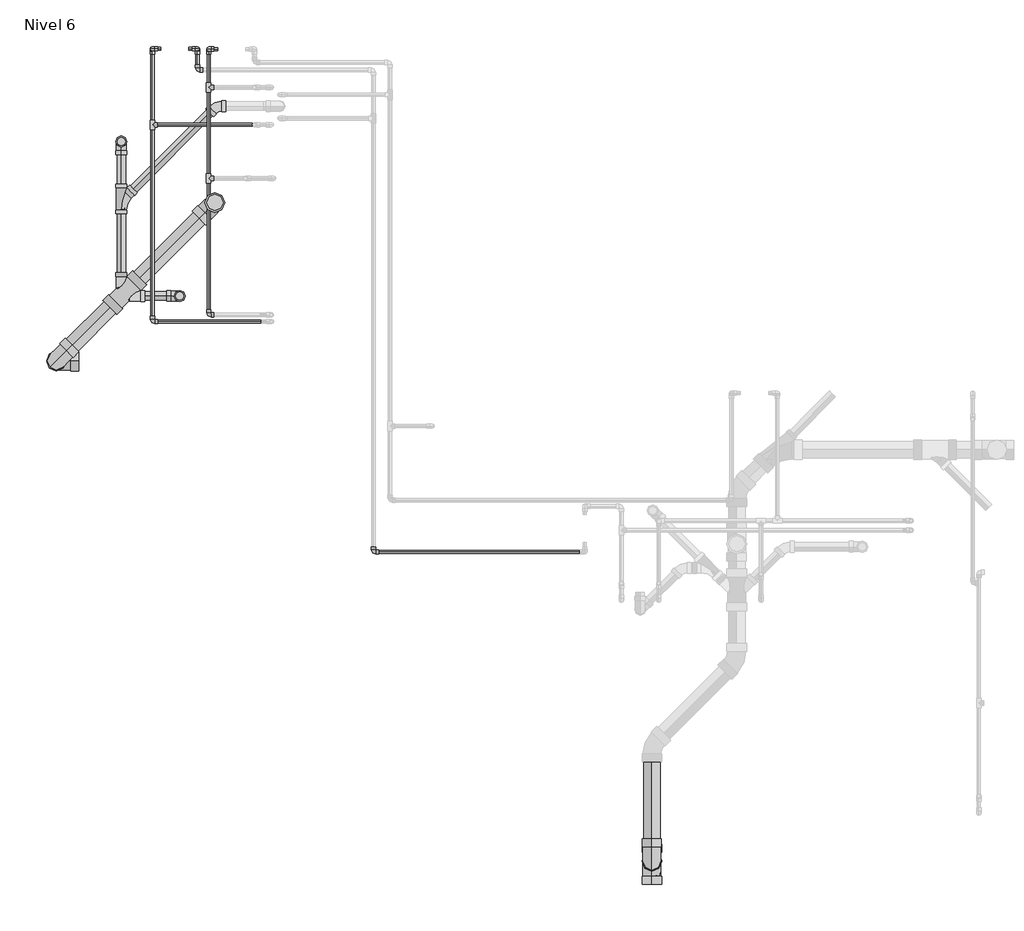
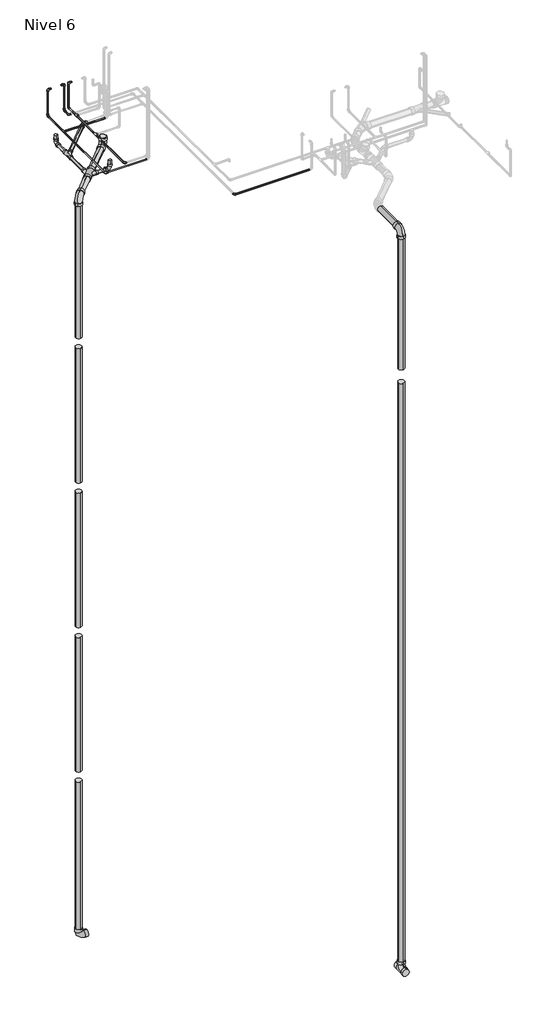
# One storey, part 1 of 11: 32 pipe segments, 23 pipe fittings.
"""IFC4 building model written with IfcOpenShell, lengths in millimetres."""

from ifc_helpers import new_model, si_unit, point, frame, frame_2d, origin, place, context, project, spatial, circle_curve, trimmed, segment, composite_curve, outline, extrude, transform, mapped, element, save
from components import pipe_fitting_ab418b84, pipe_fitting_0163322b, pipe_fitting_2a8dfbef, pipe_fitting_815a0334, m_codo_pvc_serie_40_9ad74631, m_codo_pvc_serie_40_dwv1_5c0ec739, m_codo_pvc_serie_40_dwv1_f5c0a64d, m_codo_pvc_serie_40_dwv1_6f1a2495

model = new_model("IFC4")

# Units and contexts
model_context = context("Model", 3, world=origin())
ifc_project = project(units=[si_unit("LENGTHUNIT", "METRE", prefix="MILLI")], contexts=[model_context])

# Site, building, storey
site = spatial("IfcSite", under=ifc_project)
building = spatial("IfcBuilding", under=site)
storey = spatial("IfcBuildingStorey", under=building, Name="Nivel 6", Elevation=13400.0)

# Pipe fittings
placement = place(None, origin())
pipe_fitting_shape = pipe_fitting_ab418b84(model_context)
element("IfcPipeFitting", 1, ObjectType="M_Te - PVC - Serie 40 : Estándar", at=placement, inside=storey, context=model_context, shape_type="MappedRepresentation", body=[
    mapped(pipe_fitting_shape, transform((-163.7204345, 8276.8784649, 13350.0), x_axis=(0.0, 1.0, 0.0), y_axis=(-1.0, 0.0, 0.0), z_axis=(0.0, 0.0, 1.0))),
])
element("IfcPipeFitting", 2, ObjectType="M_Te - PVC - Serie 40 : Estándar", at=placement, inside=storey, context=model_context, shape_type="MappedRepresentation", body=[
    mapped(pipe_fitting_shape, transform((-163.7204345, 8853.0157349, 13350.0), x_axis=(0.0, 1.0, 0.0), y_axis=(-1.0, 0.0, 0.0), z_axis=(0.0, 0.0, 1.0))),
])
element("IfcPipeFitting", 3, ObjectType="M_Te - PVC - Serie 40 : Estándar", at=placement, inside=storey, context=model_context, shape_type="MappedRepresentation", body=[
    mapped(pipe_fitting_shape, transform((-520.1165599, 8616.2589015, 13320.0), x_axis=(0.0, 1.0, 0.0), y_axis=(-1.0, 0.0, 0.0), z_axis=(0.0, 0.0, 1.0))),
])
pipe_fitting_2_shape = pipe_fitting_0163322b(model_context)
element("IfcPipeFitting", 4, ObjectType="M_Sanitario con te de reducción - PVC - Serie 40 - DWV : Estándar", at=placement, inside=storey, context=model_context, shape_type="MappedRepresentation", body=[
    mapped(pipe_fitting_2_shape, transform((-717.1831043, 8132.4542139, 13250.0), x_axis=(0.0, 1.0, 0.0), y_axis=(-1.0, 0.0, 0.0), z_axis=(0.0, 0.0, 1.0))),
])
pipe_fitting_3_shape = pipe_fitting_2a8dfbef(model_context)
element("IfcPipeFitting", 5, ObjectType="M_Sanitario con te de reducción - PVC - Serie 40 - DWV : Estándar", at=placement, inside=storey, context=model_context, shape_type="MappedRepresentation", body=[
    mapped(pipe_fitting_3_shape, transform((2645.0, 3948.3062341, -300.0), x_axis=(0.0, 1.0, 0.0), y_axis=(0.0, 0.0, -1.0), z_axis=(-1.0, 0.0, 0.0))),
])
pipe_fitting_4_shape = pipe_fitting_815a0334(model_context)
element("IfcPipeFitting", 6, ObjectType="M_Sanitario con te doble con reducción - PVC - Serie 40 - DWV : Estándar", at=placement, inside=storey, context=model_context, shape_type="MappedRepresentation", body=[
    mapped(pipe_fitting_4_shape, transform((-717.1831043, 7530.5089504, 13250.0), x_axis=(0.7071067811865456, 0.7071067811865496, 0.0), y_axis=(-0.7071067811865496, 0.7071067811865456, 0.0), z_axis=(0.0, 0.0, 1.0))),
])
m_codo_pvc_serie_40_shape = m_codo_pvc_serie_40_9ad74631(model_context)
element("IfcPipeFitting", 7, ObjectType="M_Codo - PVC - Serie 40 : Estándar", at=placement, inside=storey, context=model_context, shape_type="MappedRepresentation", body=[
    mapped(m_codo_pvc_serie_40_shape, transform((-163.7204345, 9095.6576087, 13800.0), x_axis=(-1.0, 0.0, 0.0), y_axis=(0.0, 0.0, -1.0), z_axis=(0.0, -1.0, 0.0))),
])
element("IfcPipeFitting", 8, ObjectType="M_Codo - PVC - Serie 40 : Estándar", at=placement, inside=storey, context=model_context, shape_type="MappedRepresentation", body=[
    mapped(m_codo_pvc_serie_40_shape, transform((-163.7204345, 9095.6576087, 13350.0), x_axis=(0.0, 0.0, -1.0), y_axis=(0.0, -1.0, 0.0), z_axis=(-1.0, 0.0, 0.0))),
])
element("IfcPipeFitting", 9, ObjectType="M_Codo - PVC - Serie 40 : Estándar", at=placement, inside=storey, context=model_context, shape_type="MappedRepresentation", body=[
    mapped(m_codo_pvc_serie_40_shape, transform((-235.1165599, 8963.3498981, 13320.0), x_axis=(0.0, -1.0, 0.0), y_axis=(1.0, 0.0, 0.0), z_axis=(0.0, 0.0, 1.0))),
])
element("IfcPipeFitting", 10, ObjectType="M_Codo - PVC - Serie 40 : Estándar", at=placement, inside=storey, context=model_context, shape_type="MappedRepresentation", body=[
    mapped(m_codo_pvc_serie_40_shape, transform((-235.1165599, 9098.3498981, 13320.0), x_axis=(0.0, 1.0, 0.0), y_axis=(0.0, 0.0, 1.0), z_axis=(1.0, 0.0, 0.0))),
])
element("IfcPipeFitting", 11, ObjectType="M_Codo - PVC - Serie 40 : Estándar", at=placement, inside=storey, context=model_context, shape_type="MappedRepresentation", body=[
    mapped(m_codo_pvc_serie_40_shape, transform((-235.1165599, 9098.3498981, 13800.0), x_axis=(0.0, 0.0, 1.0), y_axis=(-1.0, 0.0, 0.0), z_axis=(0.0, -1.0, 0.0))),
])
element("IfcPipeFitting", 12, ObjectType="M_Codo - PVC - Serie 40 : Estándar", at=placement, inside=storey, context=model_context, shape_type="MappedRepresentation", body=[
    mapped(m_codo_pvc_serie_40_shape, transform((-520.1165599, 9098.3498981, 13800.0), x_axis=(-1.0, 0.0, 0.0), y_axis=(0.0, 0.0, -1.0), z_axis=(0.0, -1.0, 0.0))),
])
element("IfcPipeFitting", 13, ObjectType="M_Codo - PVC - Serie 40 : Estándar", at=placement, inside=storey, context=model_context, shape_type="MappedRepresentation", body=[
    mapped(m_codo_pvc_serie_40_shape, transform((-520.1165599, 9098.3498981, 13320.0), x_axis=(0.0, 0.0, -1.0), y_axis=(0.0, -1.0, 0.0), z_axis=(-1.0, 0.0, 0.0))),
])
element("IfcPipeFitting", 14, ObjectType="M_Codo - PVC - Serie 40 : Estándar", at=placement, inside=storey, context=model_context, shape_type="MappedRepresentation", body=[
    mapped(m_codo_pvc_serie_40_shape, transform((-163.7204345, 7410.6576087, 13350.0), x_axis=(0.0, -1.0, 0.0), y_axis=(1.0, 0.0, 0.0), z_axis=(0.0, 0.0, 1.0))),
])
element("IfcPipeFitting", 15, ObjectType="M_Codo - PVC - Serie 40 : Estándar", at=placement, inside=storey, context=model_context, shape_type="MappedRepresentation", body=[
    mapped(m_codo_pvc_serie_40_shape, transform((-520.1165599, 7368.3498981, 13320.0), x_axis=(0.0, -1.0, 0.0), y_axis=(1.0, 0.0, 0.0), z_axis=(0.0, 0.0, 1.0))),
])
element("IfcPipeFitting", 16, ObjectType="M_Codo - PVC - Serie 40 : Estándar", at=placement, inside=storey, context=model_context, shape_type="MappedRepresentation", body=[
    mapped(m_codo_pvc_serie_40_shape, transform((879.8834401, 5907.4295856, 13320.0), x_axis=(0.0, -1.0, 0.0), y_axis=(1.0, 0.0, 0.0), z_axis=(0.0, 0.0, 1.0))),
])
m_codo_pvc_serie_40_dwv1_shape = m_codo_pvc_serie_40_dwv1_5c0ec739(model_context)
element("IfcPipeFitting", 17, ObjectType="M_Codo - PVC - Serie 40 - DWV1 : Estándar 2", at=placement, inside=storey, context=model_context, shape_type="MappedRepresentation", body=[
    mapped(m_codo_pvc_serie_40_dwv1_shape, transform((-717.1831043, 8510.5089504, 13250.0), x_axis=(0.0, 1.0, 0.0), y_axis=(0.0, 0.0, 1.0), z_axis=(1.0, 0.0, 0.0))),
])
element("IfcPipeFitting", 18, ObjectType="M_Codo - PVC - Serie 40 - DWV1 : Estándar 2", at=placement, inside=storey, context=model_context, shape_type="MappedRepresentation", body=[
    mapped(m_codo_pvc_serie_40_dwv1_shape, transform((-347.4791036, 7530.5089504, 13250.0), x_axis=(1.0, 0.0, 0.0), y_axis=(0.0, 0.0, 1.0), z_axis=(0.0, -1.0, 0.0))),
])
m_codo_pvc_serie_40_dwv1_2_shape = m_codo_pvc_serie_40_dwv1_f5c0a64d(model_context)
element("IfcPipeFitting", 19, ObjectType="M_Codo - PVC - Serie 40 - DWV1 : Estándar 2", at=placement, inside=storey, context=model_context, shape_type="MappedRepresentation", body=[
    mapped(m_codo_pvc_serie_40_dwv1_2_shape, transform((-124.2960274, 8123.3960274, 13250.0), x_axis=(0.0, 0.0, -1.0), y_axis=(-0.707106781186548, -0.707106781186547, 0.0), z_axis=(-0.707106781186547, 0.707106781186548, 0.0))),
])
element("IfcPipeFitting", 20, ObjectType="M_Codo - PVC - Serie 40 - DWV1 : Estándar 2", at=placement, inside=storey, context=model_context, shape_type="MappedRepresentation", body=[
    mapped(m_codo_pvc_serie_40_dwv1_2_shape, transform((2645.0, 3948.3062341, 13250.0), x_axis=(0.0, -1.0, 0.0), y_axis=(0.0, 0.0, -1.0), z_axis=(1.0, 0.0, 0.0))),
])
element("IfcPipeFitting", 21, ObjectType="M_Codo - PVC - Serie 40 - DWV1 : Estándar 2", at=placement, inside=storey, context=model_context, shape_type="MappedRepresentation", body=[
    mapped(m_codo_pvc_serie_40_dwv1_2_shape, transform((-1128.3876566, 7119.3043981, 13250.0), x_axis=(-0.7071067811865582, -0.7071067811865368, 0.0), y_axis=(0.0, 0.0, -1.0), z_axis=(0.7071067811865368, -0.7071067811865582, 0.0))),
])
element("IfcPipeFitting", 22, ObjectType="M_Codo - PVC - Serie 40 - DWV1 : Estándar 2", at=placement, inside=storey, context=model_context, shape_type="MappedRepresentation", body=[
    mapped(m_codo_pvc_serie_40_dwv1_2_shape, transform((-1128.3876566, 7119.3043981, -300.0), x_axis=(0.0, 0.0, -1.0), y_axis=(1.0, 0.0, 0.0), z_axis=(0.0, -1.0, 0.0))),
])
m_codo_pvc_serie_40_dwv1_3_shape = m_codo_pvc_serie_40_dwv1_6f1a2495(model_context)
element("IfcPipeFitting", 23, ObjectType="M_Codo - PVC - Serie 40 - DWV1 : Estándar 2", at=placement, inside=storey, context=model_context, shape_type="MappedRepresentation", body=[
    mapped(m_codo_pvc_serie_40_dwv1_3_shape, transform((-115.0, 8734.6373182, 13250.0), x_axis=(-1.0, 0.0, 0.0), y_axis=(0.0, -1.0, 0.0), z_axis=(0.0, 0.0, 1.0))),
])

# Pipe segments
element("IfcPipeSegment", 24, ObjectType="Tuberia PVC Agua Fria", at=placement, inside=storey, context=model_context, shape_type="SweptSolid", body=[
    extrude(outline(composite_curve([segment(trimmed(circle_curve(frame_2d((9095.6576087, 13800.0)), 10.31875), [point((9105.9763587, 13800.0))], [point((9095.6576087, 13789.68125))], False, "CARTESIAN"), True, "CONTINUOUS"), segment(trimmed(circle_curve(frame_2d((9095.6576087, 13800.0)), 10.31875), [point((9095.6576087, 13789.68125))], [point((9085.3388587, 13800.0))], False, "CARTESIAN"), True, "CONTINUOUS"), segment(trimmed(circle_curve(frame_2d((9095.6576087, 13800.0)), 10.31875), [point((9085.3388587, 13800.0))], [point((9095.6576087, 13810.31875))], False, "CARTESIAN"), True, "CONTINUOUS"), segment(trimmed(circle_curve(frame_2d((9095.6576087, 13800.0)), 10.31875), [point((9095.6576087, 13810.31875))], [point((9105.9763587, 13800.0))], False, "CARTESIAN"), True, "CONTINUOUS")], self_intersect=False)), frame((-130.3194345, 0.0, 0.0), z_axis=(1.0, 0.0, 0.0), x_axis=(0.0, 1.0, 0.0)), (0.0, 0.0, 1.0), 22.599),
])
element("IfcPipeSegment", 25, ObjectType="Tuberia PVC Agua Fria", at=placement, inside=storey, context=model_context, shape_type="SweptSolid", body=[
    extrude(outline(composite_curve([segment(trimmed(circle_curve(frame_2d((13350.0, -163.7204345)), 10.31875), [point((13350.0, -174.0391845))], [point((13339.68125, -163.7204345))], False, "CARTESIAN"), True, "CONTINUOUS"), segment(trimmed(circle_curve(frame_2d((13350.0, -163.7204345)), 10.31875), [point((13339.68125, -163.7204345))], [point((13350.0, -153.4016845))], False, "CARTESIAN"), True, "CONTINUOUS"), segment(trimmed(circle_curve(frame_2d((13350.0, -163.7204345)), 10.31875), [point((13350.0, -153.4016845))], [point((13360.31875, -163.7204345))], False, "CARTESIAN"), True, "CONTINUOUS"), segment(trimmed(circle_curve(frame_2d((13350.0, -163.7204345)), 10.31875), [point((13360.31875, -163.7204345))], [point((13350.0, -174.0391845))], False, "CARTESIAN"), True, "CONTINUOUS")], self_intersect=False)), frame((0.0, 7444.0586087, 0.0), z_axis=(0.0, 1.0, 0.0), x_axis=(0.0, 0.0, 1.0)), (0.0, 0.0, 1.0), 802.3596999),
])
element("IfcPipeSegment", 26, ObjectType="Tuberia PVC Agua Fria", at=placement, inside=storey, context=model_context, shape_type="SweptSolid", body=[
    extrude(outline(composite_curve([segment(trimmed(circle_curve(frame_2d((-163.7204345, 9095.6576087)), 10.31875), [point((-153.4016845, 9095.6576087))], [point((-163.7204345, 9085.3388587))], False, "CARTESIAN"), True, "CONTINUOUS"), segment(trimmed(circle_curve(frame_2d((-163.7204345, 9095.6576087)), 10.31875), [point((-163.7204345, 9085.3388587))], [point((-174.0391845, 9095.6576087))], False, "CARTESIAN"), True, "CONTINUOUS"), segment(trimmed(circle_curve(frame_2d((-163.7204345, 9095.6576087)), 10.31875), [point((-174.0391845, 9095.6576087))], [point((-163.7204345, 9105.9763587))], False, "CARTESIAN"), True, "CONTINUOUS"), segment(trimmed(circle_curve(frame_2d((-163.7204345, 9095.6576087)), 10.31875), [point((-163.7204345, 9105.9763587))], [point((-153.4016845, 9095.6576087))], False, "CARTESIAN"), True, "CONTINUOUS")], self_intersect=False)), frame((0.0, 0.0, 13383.401), z_axis=(0.0, 0.0, 1.0), x_axis=(1.0, 0.0, 0.0)), (0.0, 0.0, 1.0), 383.198),
])
element("IfcPipeSegment", 27, ObjectType="Tuberia PVC Agua Fria", at=placement, inside=storey, context=model_context, shape_type="SweptSolid", body=[
    extrude(outline(composite_curve([segment(trimmed(circle_curve(frame_2d((13350.0, -163.7204345)), 10.31875), [point((13350.0, -174.0391845))], [point((13339.68125, -163.7204345))], False, "CARTESIAN"), True, "CONTINUOUS"), segment(trimmed(circle_curve(frame_2d((13350.0, -163.7204345)), 10.31875), [point((13339.68125, -163.7204345))], [point((13350.0, -153.4016845))], False, "CARTESIAN"), True, "CONTINUOUS"), segment(trimmed(circle_curve(frame_2d((13350.0, -163.7204345)), 10.31875), [point((13350.0, -153.4016845))], [point((13360.31875, -163.7204345))], False, "CARTESIAN"), True, "CONTINUOUS"), segment(trimmed(circle_curve(frame_2d((13350.0, -163.7204345)), 10.31875), [point((13360.31875, -163.7204345))], [point((13350.0, -174.0391845))], False, "CARTESIAN"), True, "CONTINUOUS")], self_intersect=False)), frame((0.0, 8307.3386211, 0.0), z_axis=(0.0, 1.0, 0.0), x_axis=(0.0, 0.0, 1.0)), (0.0, 0.0, 1.0), 515.2169575),
])
element("IfcPipeSegment", 28, ObjectType="Tuberia PVC Agua Fria", at=placement, inside=storey, context=model_context, shape_type="SweptSolid", body=[
    extrude(outline(composite_curve([segment(trimmed(circle_curve(frame_2d((13350.0, -163.7204345)), 10.31875), [point((13350.0, -174.0391845))], [point((13339.68125, -163.7204345))], False, "CARTESIAN"), True, "CONTINUOUS"), segment(trimmed(circle_curve(frame_2d((13350.0, -163.7204345)), 10.31875), [point((13339.68125, -163.7204345))], [point((13350.0, -153.4016845))], False, "CARTESIAN"), True, "CONTINUOUS"), segment(trimmed(circle_curve(frame_2d((13350.0, -163.7204345)), 10.31875), [point((13350.0, -153.4016845))], [point((13360.31875, -163.7204345))], False, "CARTESIAN"), True, "CONTINUOUS"), segment(trimmed(circle_curve(frame_2d((13350.0, -163.7204345)), 10.31875), [point((13360.31875, -163.7204345))], [point((13350.0, -174.0391845))], False, "CARTESIAN"), True, "CONTINUOUS")], self_intersect=False)), frame((0.0, 8883.4758912, 0.0), z_axis=(0.0, 1.0, 0.0), x_axis=(0.0, 0.0, 1.0)), (0.0, 0.0, 1.0), 178.7807175),
])
element("IfcPipeSegment", 29, ObjectType="Tuberia PVC Agua Caliente", at=placement, inside=storey, context=model_context, shape_type="SweptSolid", body=[
    extrude(outline(composite_curve([segment(trimmed(circle_curve(frame_2d((13320.0, -235.1165599)), 10.31875), [point((13320.0, -224.7978099))], [point((13330.31875, -235.1165599))], False, "CARTESIAN"), True, "CONTINUOUS"), segment(trimmed(circle_curve(frame_2d((13320.0, -235.1165599)), 10.31875), [point((13330.31875, -235.1165599))], [point((13320.0, -245.4353099))], False, "CARTESIAN"), True, "CONTINUOUS"), segment(trimmed(circle_curve(frame_2d((13320.0, -235.1165599)), 10.31875), [point((13320.0, -245.4353099))], [point((13309.68125, -235.1165599))], False, "CARTESIAN"), True, "CONTINUOUS"), segment(trimmed(circle_curve(frame_2d((13320.0, -235.1165599)), 10.31875), [point((13309.68125, -235.1165599))], [point((13320.0, -224.7978099))], False, "CARTESIAN"), True, "CONTINUOUS")], self_intersect=False)), frame((0.0, 8996.7508981, 0.0), z_axis=(0.0, 1.0, 0.0), x_axis=(0.0, 0.0, 1.0)), (0.0, 0.0, 1.0), 68.198),
])
element("IfcPipeSegment", 30, ObjectType="Tuberia PVC Agua Caliente", at=placement, inside=storey, context=model_context, shape_type="SweptSolid", body=[
    extrude(outline(composite_curve([segment(trimmed(circle_curve(frame_2d((9098.3498981, 13800.0)), 10.31875), [point((9108.6686481, 13800.0))], [point((9098.3498981, 13789.68125))], False, "CARTESIAN"), True, "CONTINUOUS"), segment(trimmed(circle_curve(frame_2d((9098.3498981, 13800.0)), 10.31875), [point((9098.3498981, 13789.68125))], [point((9088.0311481, 13800.0))], False, "CARTESIAN"), True, "CONTINUOUS"), segment(trimmed(circle_curve(frame_2d((9098.3498981, 13800.0)), 10.31875), [point((9088.0311481, 13800.0))], [point((9098.3498981, 13810.31875))], False, "CARTESIAN"), True, "CONTINUOUS"), segment(trimmed(circle_curve(frame_2d((9098.3498981, 13800.0)), 10.31875), [point((9098.3498981, 13810.31875))], [point((9108.6686481, 13800.0))], False, "CARTESIAN"), True, "CONTINUOUS")], self_intersect=False)), frame((-486.7155599, 0.0, 0.0), z_axis=(1.0, 0.0, 0.0), x_axis=(0.0, 1.0, 0.0)), (0.0, 0.0, 1.0), 20.099),
])
element("IfcPipeSegment", 31, ObjectType="Tuberia PVC Agua Caliente", at=placement, inside=storey, context=model_context, shape_type="SweptSolid", body=[
    extrude(outline(composite_curve([segment(trimmed(circle_curve(frame_2d((-235.1165599, 9098.3498981)), 10.31875), [point((-245.4353099, 9098.3498981))], [point((-235.1165599, 9108.6686481))], False, "CARTESIAN"), True, "CONTINUOUS"), segment(trimmed(circle_curve(frame_2d((-235.1165599, 9098.3498981)), 10.31875), [point((-235.1165599, 9108.6686481))], [point((-224.7978099, 9098.3498981))], False, "CARTESIAN"), True, "CONTINUOUS"), segment(trimmed(circle_curve(frame_2d((-235.1165599, 9098.3498981)), 10.31875), [point((-224.7978099, 9098.3498981))], [point((-235.1165599, 9088.0311481))], False, "CARTESIAN"), True, "CONTINUOUS"), segment(trimmed(circle_curve(frame_2d((-235.1165599, 9098.3498981)), 10.31875), [point((-235.1165599, 9088.0311481))], [point((-245.4353099, 9098.3498981))], False, "CARTESIAN"), True, "CONTINUOUS")], self_intersect=False)), frame((0.0, 0.0, 13353.401), z_axis=(0.0, 0.0, 1.0), x_axis=(1.0, 0.0, 0.0)), (0.0, 0.0, 1.0), 413.198),
])
element("IfcPipeSegment", 32, ObjectType="Tuberia PVC Agua Caliente", at=placement, inside=storey, context=model_context, shape_type="SweptSolid", body=[
    extrude(outline(composite_curve([segment(trimmed(circle_curve(frame_2d((-520.1165599, 9098.3498981)), 10.31875), [point((-509.7978099, 9098.3498981))], [point((-520.1165599, 9088.0311481))], False, "CARTESIAN"), True, "CONTINUOUS"), segment(trimmed(circle_curve(frame_2d((-520.1165599, 9098.3498981)), 10.31875), [point((-520.1165599, 9088.0311481))], [point((-530.4353099, 9098.3498981))], False, "CARTESIAN"), True, "CONTINUOUS"), segment(trimmed(circle_curve(frame_2d((-520.1165599, 9098.3498981)), 10.31875), [point((-530.4353099, 9098.3498981))], [point((-520.1165599, 9108.6686481))], False, "CARTESIAN"), True, "CONTINUOUS"), segment(trimmed(circle_curve(frame_2d((-520.1165599, 9098.3498981)), 10.31875), [point((-520.1165599, 9108.6686481))], [point((-509.7978099, 9098.3498981))], False, "CARTESIAN"), True, "CONTINUOUS")], self_intersect=False)), frame((0.0, 0.0, 13353.401), z_axis=(0.0, 0.0, 1.0), x_axis=(1.0, 0.0, 0.0)), (0.0, 0.0, 1.0), 413.198),
])
element("IfcPipeSegment", 33, ObjectType="Tuberia PVC Agua Caliente", at=placement, inside=storey, context=model_context, shape_type="SweptSolid", body=[
    extrude(outline(composite_curve([segment(trimmed(circle_curve(frame_2d((9098.3498981, 13800.0)), 10.31875), [point((9108.6686481, 13800.0))], [point((9098.3498981, 13789.68125))], False, "CARTESIAN"), True, "CONTINUOUS"), segment(trimmed(circle_curve(frame_2d((9098.3498981, 13800.0)), 10.31875), [point((9098.3498981, 13789.68125))], [point((9088.0311481, 13800.0))], False, "CARTESIAN"), True, "CONTINUOUS"), segment(trimmed(circle_curve(frame_2d((9098.3498981, 13800.0)), 10.31875), [point((9088.0311481, 13800.0))], [point((9098.3498981, 13810.31875))], False, "CARTESIAN"), True, "CONTINUOUS"), segment(trimmed(circle_curve(frame_2d((9098.3498981, 13800.0)), 10.31875), [point((9098.3498981, 13810.31875))], [point((9108.6686481, 13800.0))], False, "CARTESIAN"), True, "CONTINUOUS")], self_intersect=False)), frame((-288.6165599, 0.0, 0.0), z_axis=(1.0, 0.0, 0.0), x_axis=(0.0, 1.0, 0.0)), (0.0, 0.0, 1.0), 20.099),
])
element("IfcPipeSegment", 34, ObjectType="Tuberia PVC Agua Caliente", at=placement, inside=storey, context=model_context, shape_type="SweptSolid", body=[
    extrude(outline(composite_curve([segment(trimmed(circle_curve(frame_2d((7368.3498981, 13320.0)), 10.31875), [point((7358.0311481, 13320.0))], [point((7368.3498981, 13330.31875))], False, "CARTESIAN"), True, "CONTINUOUS"), segment(trimmed(circle_curve(frame_2d((7368.3498981, 13320.0)), 10.31875), [point((7368.3498981, 13330.31875))], [point((7378.6686481, 13320.0))], False, "CARTESIAN"), True, "CONTINUOUS"), segment(trimmed(circle_curve(frame_2d((7368.3498981, 13320.0)), 10.31875), [point((7378.6686481, 13320.0))], [point((7368.3498981, 13309.68125))], False, "CARTESIAN"), True, "CONTINUOUS"), segment(trimmed(circle_curve(frame_2d((7368.3498981, 13320.0)), 10.31875), [point((7368.3498981, 13309.68125))], [point((7358.0311481, 13320.0))], False, "CARTESIAN"), True, "CONTINUOUS")], self_intersect=False)), frame((-486.7155599, 0.0, 0.0), z_axis=(1.0, 0.0, 0.0), x_axis=(0.0, 1.0, 0.0)), (0.0, 0.0, 1.0), 688.198),
])
element("IfcPipeSegment", 35, ObjectType="Tuberia PVC Agua Caliente", at=placement, inside=storey, context=model_context, shape_type="SweptSolid", body=[
    extrude(outline(composite_curve([segment(trimmed(circle_curve(frame_2d((8616.2589015, 13320.0)), 10.31875), [point((8626.5776515, 13320.0))], [point((8616.2589015, 13309.68125))], False, "CARTESIAN"), True, "CONTINUOUS"), segment(trimmed(circle_curve(frame_2d((8616.2589015, 13320.0)), 10.31875), [point((8616.2589015, 13309.68125))], [point((8605.9401515, 13320.0))], False, "CARTESIAN"), True, "CONTINUOUS"), segment(trimmed(circle_curve(frame_2d((8616.2589015, 13320.0)), 10.31875), [point((8605.9401515, 13320.0))], [point((8616.2589015, 13330.31875))], False, "CARTESIAN"), True, "CONTINUOUS"), segment(trimmed(circle_curve(frame_2d((8616.2589015, 13320.0)), 10.31875), [point((8616.2589015, 13330.31875))], [point((8626.5776515, 13320.0))], False, "CARTESIAN"), True, "CONTINUOUS")], self_intersect=False)), frame((-489.6564037, 0.0, 0.0), z_axis=(1.0, 0.0, 0.0), x_axis=(0.0, 1.0, 0.0)), (0.0, 0.0, 1.0), 690.1046403),
])
element("IfcPipeSegment", 36, ObjectType="Tuberia PVC Agua Caliente", at=placement, inside=storey, context=model_context, shape_type="SweptSolid", body=[
    extrude(outline(composite_curve([segment(trimmed(circle_curve(frame_2d((13320.0, -520.1165599)), 10.31875), [point((13320.0, -530.4353099))], [point((13309.68125, -520.1165599))], False, "CARTESIAN"), True, "CONTINUOUS"), segment(trimmed(circle_curve(frame_2d((13320.0, -520.1165599)), 10.31875), [point((13309.68125, -520.1165599))], [point((13320.0, -509.7978099))], False, "CARTESIAN"), True, "CONTINUOUS"), segment(trimmed(circle_curve(frame_2d((13320.0, -520.1165599)), 10.31875), [point((13320.0, -509.7978099))], [point((13330.31875, -520.1165599))], False, "CARTESIAN"), True, "CONTINUOUS"), segment(trimmed(circle_curve(frame_2d((13320.0, -520.1165599)), 10.31875), [point((13330.31875, -520.1165599))], [point((13320.0, -530.4353099))], False, "CARTESIAN"), True, "CONTINUOUS")], self_intersect=False)), frame((0.0, 7401.7508981, 0.0), z_axis=(0.0, 1.0, 0.0), x_axis=(0.0, 0.0, 1.0)), (0.0, 0.0, 1.0), 1184.0478472),
])
element("IfcPipeSegment", 37, ObjectType="Tuberia PVC Agua Caliente", at=placement, inside=storey, context=model_context, shape_type="SweptSolid", body=[
    extrude(outline(composite_curve([segment(trimmed(circle_curve(frame_2d((13320.0, -520.1165599)), 10.31875), [point((13320.0, -530.4353099))], [point((13309.68125, -520.1165599))], False, "CARTESIAN"), True, "CONTINUOUS"), segment(trimmed(circle_curve(frame_2d((13320.0, -520.1165599)), 10.31875), [point((13309.68125, -520.1165599))], [point((13320.0, -509.7978099))], False, "CARTESIAN"), True, "CONTINUOUS"), segment(trimmed(circle_curve(frame_2d((13320.0, -520.1165599)), 10.31875), [point((13320.0, -509.7978099))], [point((13330.31875, -520.1165599))], False, "CARTESIAN"), True, "CONTINUOUS"), segment(trimmed(circle_curve(frame_2d((13320.0, -520.1165599)), 10.31875), [point((13330.31875, -520.1165599))], [point((13320.0, -530.4353099))], False, "CARTESIAN"), True, "CONTINUOUS")], self_intersect=False)), frame((0.0, 8646.7190578, 0.0), z_axis=(0.0, 1.0, 0.0), x_axis=(0.0, 0.0, 1.0)), (0.0, 0.0, 1.0), 418.2298403),
])
element("IfcPipeSegment", 38, ObjectType="Tuberia PVC Agua Caliente", at=placement, inside=storey, context=model_context, shape_type="SweptSolid", body=[
    extrude(outline(composite_curve([segment(trimmed(circle_curve(frame_2d((5907.4295856, 13320.0)), 10.31875), [point((5897.1108356, 13320.0))], [point((5907.4295856, 13330.31875))], False, "CARTESIAN"), True, "CONTINUOUS"), segment(trimmed(circle_curve(frame_2d((5907.4295856, 13320.0)), 10.31875), [point((5907.4295856, 13330.31875))], [point((5917.7483356, 13320.0))], False, "CARTESIAN"), True, "CONTINUOUS"), segment(trimmed(circle_curve(frame_2d((5907.4295856, 13320.0)), 10.31875), [point((5917.7483356, 13320.0))], [point((5907.4295856, 13309.68125))], False, "CARTESIAN"), True, "CONTINUOUS"), segment(trimmed(circle_curve(frame_2d((5907.4295856, 13320.0)), 10.31875), [point((5907.4295856, 13309.68125))], [point((5897.1108356, 13320.0))], False, "CARTESIAN"), True, "CONTINUOUS")], self_intersect=False)), frame((913.2844401, 0.0, 0.0), z_axis=(1.0, 0.0, 0.0), x_axis=(0.0, 1.0, 0.0)), (0.0, 0.0, 1.0), 1273.198),
])
element("IfcPipeSegment", 39, ObjectType="Tuberia PVC Sanitario", at=placement, inside=storey, context=model_context, shape_type="SweptSolid", body=[
    extrude(outline(composite_curve([segment(trimmed(circle_curve(frame_2d((-124.2960274, 8123.3960274)), 52.3875), [point((-71.9085274, 8123.3960274))], [point((-124.2960274, 8071.0085274))], False, "CARTESIAN"), True, "CONTINUOUS"), segment(trimmed(circle_curve(frame_2d((-124.2960274, 8123.3960274)), 52.3875), [point((-124.2960274, 8071.0085274))], [point((-176.6835274, 8123.3960274))], False, "CARTESIAN"), True, "CONTINUOUS"), segment(trimmed(circle_curve(frame_2d((-124.2960274, 8123.3960274)), 52.3875), [point((-176.6835274, 8123.3960274))], [point((-124.2960274, 8175.7835274))], False, "CARTESIAN"), True, "CONTINUOUS"), segment(trimmed(circle_curve(frame_2d((-124.2960274, 8123.3960274)), 52.3875), [point((-124.2960274, 8175.7835274))], [point((-71.9085274, 8123.3960274))], False, "CARTESIAN"), True, "CONTINUOUS")], self_intersect=False)), frame((0.0, 0.0, 13391.4700625), z_axis=(0.0, 0.0, 1.0), x_axis=(1.0, 0.0, 0.0)), (0.0, 0.0, 1.0), 8.5299375),
])
element("IfcPipeSegment", 40, ObjectType="Tuberia PVC Sanitario", at=placement, inside=storey, context=model_context, shape_type="SweptSolid", body=[
    extrude(outline(composite_curve([segment(trimmed(circle_curve(frame_2d((13250.0, -717.1831043)), 26.9875), [point((13250.0, -690.1956043))], [point((13276.9875, -717.1831043))], False, "CARTESIAN"), True, "CONTINUOUS"), segment(trimmed(circle_curve(frame_2d((13250.0, -717.1831043)), 26.9875), [point((13276.9875, -717.1831043))], [point((13250.0, -744.1706043))], False, "CARTESIAN"), True, "CONTINUOUS"), segment(trimmed(circle_curve(frame_2d((13250.0, -717.1831043)), 26.9875), [point((13250.0, -744.1706043))], [point((13223.0125, -717.1831043))], False, "CARTESIAN"), True, "CONTINUOUS"), segment(trimmed(circle_curve(frame_2d((13250.0, -717.1831043)), 26.9875), [point((13223.0125, -717.1831043))], [point((13250.0, -690.1956043))], False, "CARTESIAN"), True, "CONTINUOUS")], self_intersect=False)), frame((0.0, 8241.2918206, 0.0), z_axis=(0.0, 1.0, 0.0), x_axis=(0.0, 0.0, 1.0)), (0.0, 0.0, 1.0), 186.6750673),
])
element("IfcPipeSegment", 41, ObjectType="Tuberia PVC Sanitario", at=placement, inside=storey, context=model_context, shape_type="SweptSolid", body=[
    extrude(outline(composite_curve([segment(trimmed(circle_curve(frame_2d((0.0, -52.3875)), 52.3875), [point((-52.3875, -52.3875))], [point((0.0, 0.0))], False, "CARTESIAN"), True, "CONTINUOUS"), segment(trimmed(circle_curve(frame_2d((0.0, -52.3875)), 52.3875), [point((0.0, 0.0))], [point((52.3875, -52.3875))], False, "CARTESIAN"), True, "CONTINUOUS"), segment(trimmed(circle_curve(frame_2d((0.0, -52.3875)), 52.3875), [point((52.3875, -52.3875))], [point((0.0, -104.775))], False, "CARTESIAN"), True, "CONTINUOUS"), segment(trimmed(circle_curve(frame_2d((0.0, -52.3875)), 52.3875), [point((0.0, -104.775))], [point((-52.3875, -52.3875))], False, "CARTESIAN"), True, "CONTINUOUS")], self_intersect=False)), frame((-1028.3532161, 7219.3388386, 13197.6125), z_axis=(0.7071067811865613, 0.7071067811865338, 0.0), x_axis=(0.7071067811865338, -0.7071067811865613, 0.0)), (0.0, 0.0, 1.0), 337.4370548),
])
element("IfcPipeSegment", 42, ObjectType="Tuberia PVC Sanitario", at=placement, inside=storey, context=model_context, shape_type="SweptSolid", body=[
    extrude(outline(composite_curve([segment(trimmed(circle_curve(frame_2d((0.0, 26.9875)), 26.9875), [point((26.9875, 26.9875))], [point((0.0, 0.0))], False, "CARTESIAN"), True, "CONTINUOUS"), segment(trimmed(circle_curve(frame_2d((0.0, 26.9875)), 26.9875), [point((0.0, 0.0))], [point((-26.9875, 26.9875))], False, "CARTESIAN"), True, "CONTINUOUS"), segment(trimmed(circle_curve(frame_2d((0.0, 26.9875)), 26.9875), [point((-26.9875, 26.9875))], [point((0.0, 53.975))], False, "CARTESIAN"), True, "CONTINUOUS"), segment(trimmed(circle_curve(frame_2d((0.0, 26.9875)), 26.9875), [point((0.0, 53.975))], [point((26.9875, 26.9875))], False, "CARTESIAN"), True, "CONTINUOUS")], self_intersect=False)), frame((-640.2232945, 8209.4140237, 13276.9875), z_axis=(0.7071067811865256, 0.7071067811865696, 0.0), x_axis=(0.7071067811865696, -0.7071067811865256, 0.0)), (0.0, 0.0, 1.0), 682.3497189),
])
element("IfcPipeSegment", 43, ObjectType="Tuberia PVC Sanitario", at=placement, inside=storey, context=model_context, shape_type="SweptSolid", body=[
    extrude(outline(composite_curve([segment(trimmed(circle_curve(frame_2d((13250.0, -717.1831043)), 26.9875), [point((13250.0, -744.1706043))], [point((13223.0125, -717.1831043))], False, "CARTESIAN"), True, "CONTINUOUS"), segment(trimmed(circle_curve(frame_2d((13250.0, -717.1831043)), 26.9875), [point((13223.0125, -717.1831043))], [point((13250.0, -690.1956043))], False, "CARTESIAN"), True, "CONTINUOUS"), segment(trimmed(circle_curve(frame_2d((13250.0, -717.1831043)), 26.9875), [point((13250.0, -690.1956043))], [point((13276.9875, -717.1831043))], False, "CARTESIAN"), True, "CONTINUOUS"), segment(trimmed(circle_curve(frame_2d((13250.0, -717.1831043)), 26.9875), [point((13276.9875, -717.1831043))], [point((13250.0, -744.1706043))], False, "CARTESIAN"), True, "CONTINUOUS")], self_intersect=False)), frame((0.0, 7680.2129511, 0.0), z_axis=(0.0, 1.0, 0.0), x_axis=(0.0, 0.0, 1.0)), (0.0, 0.0, 1.0), 372.3067961),
])
element("IfcPipeSegment", 44, ObjectType="Tuberia PVC Sanitario", at=placement, inside=storey, context=model_context, shape_type="SweptSolid", body=[
    extrude(outline(composite_curve([segment(trimmed(circle_curve(frame_2d((0.0, -52.3875)), 52.3875), [point((-52.3875, -52.3875))], [point((0.0, 0.0))], False, "CARTESIAN"), True, "CONTINUOUS"), segment(trimmed(circle_curve(frame_2d((0.0, -52.3875)), 52.3875), [point((0.0, 0.0))], [point((52.3875, -52.3875))], False, "CARTESIAN"), True, "CONTINUOUS"), segment(trimmed(circle_curve(frame_2d((0.0, -52.3875)), 52.3875), [point((52.3875, -52.3875))], [point((0.0, -104.775))], False, "CARTESIAN"), True, "CONTINUOUS"), segment(trimmed(circle_curve(frame_2d((0.0, -52.3875)), 52.3875), [point((0.0, -104.775))], [point((-52.3875, -52.3875))], False, "CARTESIAN"), True, "CONTINUOUS")], self_intersect=False)), frame((-601.4005248, 7646.2915299, 13197.6125), z_axis=(0.7071067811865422, 0.7071067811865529, 0.0), x_axis=(0.7071067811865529, -0.7071067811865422, 0.0)), (0.0, 0.0, 1.0), 533.2575885),
])
element("IfcPipeSegment", 45, ObjectType="Tuberia PVC Sanitario", at=placement, inside=storey, context=model_context, shape_type="SweptSolid", body=[
    extrude(outline(composite_curve([segment(trimmed(circle_curve(frame_2d((-717.1831043, 8510.5089504)), 26.9875), [point((-744.1706043, 8510.5089504))], [point((-717.1831043, 8537.4964504))], False, "CARTESIAN"), True, "CONTINUOUS"), segment(trimmed(circle_curve(frame_2d((-717.1831043, 8510.5089504)), 26.9875), [point((-717.1831043, 8537.4964504))], [point((-690.1956043, 8510.5089504))], False, "CARTESIAN"), True, "CONTINUOUS"), segment(trimmed(circle_curve(frame_2d((-717.1831043, 8510.5089504)), 26.9875), [point((-690.1956043, 8510.5089504))], [point((-717.1831043, 8483.5214504))], False, "CARTESIAN"), True, "CONTINUOUS"), segment(trimmed(circle_curve(frame_2d((-717.1831043, 8510.5089504)), 26.9875), [point((-717.1831043, 8483.5214504))], [point((-744.1706043, 8510.5089504))], False, "CARTESIAN"), True, "CONTINUOUS")], self_intersect=False)), frame((0.0, 0.0, 13332.5420625), z_axis=(0.0, 0.0, 1.0), x_axis=(1.0, 0.0, 0.0)), (0.0, 0.0, 1.0), 67.4579375),
])
element("IfcPipeSegment", 46, ObjectType="Tuberia PVC Sanitario", at=placement, inside=storey, context=model_context, shape_type="SweptSolid", body=[
    extrude(outline(composite_curve([segment(trimmed(circle_curve(frame_2d((7530.5089504, 13250.0)), 26.9875), [point((7503.5214504, 13250.0))], [point((7530.5089504, 13276.9875))], False, "CARTESIAN"), True, "CONTINUOUS"), segment(trimmed(circle_curve(frame_2d((7530.5089504, 13250.0)), 26.9875), [point((7530.5089504, 13276.9875))], [point((7557.4964504, 13250.0))], False, "CARTESIAN"), True, "CONTINUOUS"), segment(trimmed(circle_curve(frame_2d((7530.5089504, 13250.0)), 26.9875), [point((7557.4964504, 13250.0))], [point((7530.5089504, 13223.0125))], False, "CARTESIAN"), True, "CONTINUOUS"), segment(trimmed(circle_curve(frame_2d((7530.5089504, 13250.0)), 26.9875), [point((7530.5089504, 13223.0125))], [point((7503.5214504, 13250.0))], False, "CARTESIAN"), True, "CONTINUOUS")], self_intersect=False)), frame((-567.4791036, 0.0, 0.0), z_axis=(1.0, 0.0, 0.0), x_axis=(0.0, 1.0, 0.0)), (0.0, 0.0, 1.0), 137.4579375),
])
element("IfcPipeSegment", 47, ObjectType="Tuberia PVC Sanitario", at=placement, inside=storey, context=model_context, shape_type="SweptSolid", body=[
    extrude(outline(composite_curve([segment(trimmed(circle_curve(frame_2d((-347.4791036, 7530.5089504)), 26.9875), [point((-320.4916036, 7530.5089504))], [point((-347.4791036, 7503.5214504))], False, "CARTESIAN"), True, "CONTINUOUS"), segment(trimmed(circle_curve(frame_2d((-347.4791036, 7530.5089504)), 26.9875), [point((-347.4791036, 7503.5214504))], [point((-374.4666036, 7530.5089504))], False, "CARTESIAN"), True, "CONTINUOUS"), segment(trimmed(circle_curve(frame_2d((-347.4791036, 7530.5089504)), 26.9875), [point((-374.4666036, 7530.5089504))], [point((-347.4791036, 7557.4964504))], False, "CARTESIAN"), True, "CONTINUOUS"), segment(trimmed(circle_curve(frame_2d((-347.4791036, 7530.5089504)), 26.9875), [point((-347.4791036, 7557.4964504))], [point((-320.4916036, 7530.5089504))], False, "CARTESIAN"), True, "CONTINUOUS")], self_intersect=False)), frame((0.0, 0.0, 13332.5420625), z_axis=(0.0, 0.0, 1.0), x_axis=(1.0, 0.0, 0.0)), (0.0, 0.0, 1.0), 67.4579375),
])
element("IfcPipeSegment", 48, ObjectType="Tuberia PVC Sanitario", at=placement, inside=storey, context=model_context, shape_type="SweptSolid", body=[
    extrude(outline(composite_curve([segment(trimmed(circle_curve(frame_2d((13250.0, 2645.0)), 52.3875), [point((13250.0, 2592.6125))], [point((13197.6125, 2645.0))], False, "CARTESIAN"), True, "CONTINUOUS"), segment(trimmed(circle_curve(frame_2d((13250.0, 2645.0)), 52.3875), [point((13197.6125, 2645.0))], [point((13250.0, 2697.3875))], False, "CARTESIAN"), True, "CONTINUOUS"), segment(trimmed(circle_curve(frame_2d((13250.0, 2645.0)), 52.3875), [point((13250.0, 2697.3875))], [point((13302.3875, 2645.0))], False, "CARTESIAN"), True, "CONTINUOUS"), segment(trimmed(circle_curve(frame_2d((13250.0, 2645.0)), 52.3875), [point((13302.3875, 2645.0))], [point((13250.0, 2592.6125))], False, "CARTESIAN"), True, "CONTINUOUS")], self_intersect=False)), frame((0.0, 4089.7762966, 0.0), z_axis=(0.0, 1.0, 0.0), x_axis=(0.0, 0.0, 1.0)), (0.0, 0.0, 1.0), 486.1219744),
])
element("IfcPipeSegment", 49, ObjectType="Tuberia PVC Sanitario", at=placement, inside=storey, context=model_context, shape_type="SweptSolid", body=[
    extrude(outline(composite_curve([segment(trimmed(circle_curve(frame_2d((2645.0, 3948.3062341)), 52.3875), [point((2697.3875, 3948.3062341))], [point((2645.0, 3895.9187341))], False, "CARTESIAN"), True, "CONTINUOUS"), segment(trimmed(circle_curve(frame_2d((2645.0, 3948.3062341)), 52.3875), [point((2645.0, 3895.9187341))], [point((2592.6125, 3948.3062341))], False, "CARTESIAN"), True, "CONTINUOUS"), segment(trimmed(circle_curve(frame_2d((2645.0, 3948.3062341)), 52.3875), [point((2592.6125, 3948.3062341))], [point((2645.0, 4000.6937341))], False, "CARTESIAN"), True, "CONTINUOUS"), segment(trimmed(circle_curve(frame_2d((2645.0, 3948.3062341)), 52.3875), [point((2645.0, 4000.6937341))], [point((2697.3875, 3948.3062341))], False, "CARTESIAN"), True, "CONTINUOUS")], self_intersect=False)), frame((0.0, 0.0, -153.1840312), z_axis=(0.0, 0.0, 1.0), x_axis=(1.0, 0.0, 0.0)), (0.0, 0.0, 1.0), 10609.2893165),
])
element("IfcPipeSegment", 50, ObjectType="Tuberia PVC Sanitario", at=placement, inside=storey, context=model_context, shape_type="SweptSolid", body=[
    extrude(outline(composite_curve([segment(trimmed(circle_curve(frame_2d((2645.0, 3948.3062341)), 52.3875), [point((2697.3875, 3948.3062341))], [point((2645.0, 3895.9187341))], False, "CARTESIAN"), True, "CONTINUOUS"), segment(trimmed(circle_curve(frame_2d((2645.0, 3948.3062341)), 52.3875), [point((2645.0, 3895.9187341))], [point((2592.6125, 3948.3062341))], False, "CARTESIAN"), True, "CONTINUOUS"), segment(trimmed(circle_curve(frame_2d((2645.0, 3948.3062341)), 52.3875), [point((2592.6125, 3948.3062341))], [point((2645.0, 4000.6937341))], False, "CARTESIAN"), True, "CONTINUOUS"), segment(trimmed(circle_curve(frame_2d((2645.0, 3948.3062341)), 52.3875), [point((2645.0, 4000.6937341))], [point((2697.3875, 3948.3062341))], False, "CARTESIAN"), True, "CONTINUOUS")], self_intersect=False)), frame((0.0, 0.0, 10707.8375415), z_axis=(0.0, 0.0, 1.0), x_axis=(1.0, 0.0, 0.0)), (0.0, 0.0, 1.0), 2400.692396),
])
element("IfcPipeSegment", 51, ObjectType="Tuberia PVC Sanitario", at=placement, inside=storey, context=model_context, shape_type="SweptSolid", body=[
    extrude(outline(composite_curve([segment(trimmed(circle_curve(frame_2d((-1128.3876566, 7119.3043981)), 52.3875), [point((-1076.0001566, 7119.3043981))], [point((-1128.3876566, 7066.9168981))], False, "CARTESIAN"), True, "CONTINUOUS"), segment(trimmed(circle_curve(frame_2d((-1128.3876566, 7119.3043981)), 52.3875), [point((-1128.3876566, 7066.9168981))], [point((-1180.7751566, 7119.3043981))], False, "CARTESIAN"), True, "CONTINUOUS"), segment(trimmed(circle_curve(frame_2d((-1128.3876566, 7119.3043981)), 52.3875), [point((-1180.7751566, 7119.3043981))], [point((-1128.3876566, 7171.6918981))], False, "CARTESIAN"), True, "CONTINUOUS"), segment(trimmed(circle_curve(frame_2d((-1128.3876566, 7119.3043981)), 52.3875), [point((-1128.3876566, 7171.6918981))], [point((-1076.0001566, 7119.3043981))], False, "CARTESIAN"), True, "CONTINUOUS")], self_intersect=False)), frame((0.0, 0.0, -158.5299375), z_axis=(0.0, 0.0, 1.0), x_axis=(1.0, 0.0, 0.0)), (0.0, 0.0, 1.0), 2702.7352228),
])
element("IfcPipeSegment", 52, ObjectType="Tuberia PVC Sanitario", at=placement, inside=storey, context=model_context, shape_type="SweptSolid", body=[
    extrude(outline(composite_curve([segment(trimmed(circle_curve(frame_2d((-1128.3876566, 7119.3043981)), 52.3875), [point((-1076.0001566, 7119.3043981))], [point((-1128.3876566, 7066.9168981))], False, "CARTESIAN"), True, "CONTINUOUS"), segment(trimmed(circle_curve(frame_2d((-1128.3876566, 7119.3043981)), 52.3875), [point((-1128.3876566, 7066.9168981))], [point((-1180.7751566, 7119.3043981))], False, "CARTESIAN"), True, "CONTINUOUS"), segment(trimmed(circle_curve(frame_2d((-1128.3876566, 7119.3043981)), 52.3875), [point((-1180.7751566, 7119.3043981))], [point((-1128.3876566, 7171.6918981))], False, "CARTESIAN"), True, "CONTINUOUS"), segment(trimmed(circle_curve(frame_2d((-1128.3876566, 7119.3043981)), 52.3875), [point((-1128.3876566, 7171.6918981))], [point((-1076.0001566, 7119.3043981))], False, "CARTESIAN"), True, "CONTINUOUS")], self_intersect=False)), frame((0.0, 0.0, 5380.9135415), z_axis=(0.0, 0.0, 1.0), x_axis=(1.0, 0.0, 0.0)), (0.0, 0.0, 1.0), 2463.2917437),
])
element("IfcPipeSegment", 53, ObjectType="Tuberia PVC Sanitario", at=placement, inside=storey, context=model_context, shape_type="SweptSolid", body=[
    extrude(outline(composite_curve([segment(trimmed(circle_curve(frame_2d((-1128.3876566, 7119.3043981)), 52.3875), [point((-1076.0001566, 7119.3043981))], [point((-1128.3876566, 7066.9168981))], False, "CARTESIAN"), True, "CONTINUOUS"), segment(trimmed(circle_curve(frame_2d((-1128.3876566, 7119.3043981)), 52.3875), [point((-1128.3876566, 7066.9168981))], [point((-1180.7751566, 7119.3043981))], False, "CARTESIAN"), True, "CONTINUOUS"), segment(trimmed(circle_curve(frame_2d((-1128.3876566, 7119.3043981)), 52.3875), [point((-1180.7751566, 7119.3043981))], [point((-1128.3876566, 7171.6918981))], False, "CARTESIAN"), True, "CONTINUOUS"), segment(trimmed(circle_curve(frame_2d((-1128.3876566, 7119.3043981)), 52.3875), [point((-1128.3876566, 7171.6918981))], [point((-1076.0001566, 7119.3043981))], False, "CARTESIAN"), True, "CONTINUOUS")], self_intersect=False)), frame((0.0, 0.0, 2730.9135415), z_axis=(0.0, 0.0, 1.0), x_axis=(1.0, 0.0, 0.0)), (0.0, 0.0, 1.0), 2463.2917438),
])
element("IfcPipeSegment", 54, ObjectType="Tuberia PVC Sanitario", at=placement, inside=storey, context=model_context, shape_type="SweptSolid", body=[
    extrude(outline(composite_curve([segment(trimmed(circle_curve(frame_2d((-1128.3876566, 7119.3043981)), 52.3875), [point((-1076.0001566, 7119.3043981))], [point((-1128.3876566, 7066.9168981))], False, "CARTESIAN"), True, "CONTINUOUS"), segment(trimmed(circle_curve(frame_2d((-1128.3876566, 7119.3043981)), 52.3875), [point((-1128.3876566, 7066.9168981))], [point((-1180.7751566, 7119.3043981))], False, "CARTESIAN"), True, "CONTINUOUS"), segment(trimmed(circle_curve(frame_2d((-1128.3876566, 7119.3043981)), 52.3875), [point((-1180.7751566, 7119.3043981))], [point((-1128.3876566, 7171.6918981))], False, "CARTESIAN"), True, "CONTINUOUS"), segment(trimmed(circle_curve(frame_2d((-1128.3876566, 7119.3043981)), 52.3875), [point((-1128.3876566, 7171.6918981))], [point((-1076.0001566, 7119.3043981))], False, "CARTESIAN"), True, "CONTINUOUS")], self_intersect=False)), frame((0.0, 0.0, 8030.9135415), z_axis=(0.0, 0.0, 1.0), x_axis=(1.0, 0.0, 0.0)), (0.0, 0.0, 1.0), 2463.2917438),
])
element("IfcPipeSegment", 55, ObjectType="Tuberia PVC Sanitario", at=placement, inside=storey, context=model_context, shape_type="SweptSolid", body=[
    extrude(outline(composite_curve([segment(trimmed(circle_curve(frame_2d((-1128.3876566, 7119.3043981)), 52.3875), [point((-1076.0001566, 7119.3043981))], [point((-1128.3876566, 7066.9168981))], False, "CARTESIAN"), True, "CONTINUOUS"), segment(trimmed(circle_curve(frame_2d((-1128.3876566, 7119.3043981)), 52.3875), [point((-1128.3876566, 7066.9168981))], [point((-1180.7751566, 7119.3043981))], False, "CARTESIAN"), True, "CONTINUOUS"), segment(trimmed(circle_curve(frame_2d((-1128.3876566, 7119.3043981)), 52.3875), [point((-1180.7751566, 7119.3043981))], [point((-1128.3876566, 7171.6918981))], False, "CARTESIAN"), True, "CONTINUOUS"), segment(trimmed(circle_curve(frame_2d((-1128.3876566, 7119.3043981)), 52.3875), [point((-1128.3876566, 7171.6918981))], [point((-1076.0001566, 7119.3043981))], False, "CARTESIAN"), True, "CONTINUOUS")], self_intersect=False)), frame((0.0, 0.0, 10680.9135415), z_axis=(0.0, 0.0, 1.0), x_axis=(1.0, 0.0, 0.0)), (0.0, 0.0, 1.0), 2427.616396),
])

save(model, "model.ifc")
